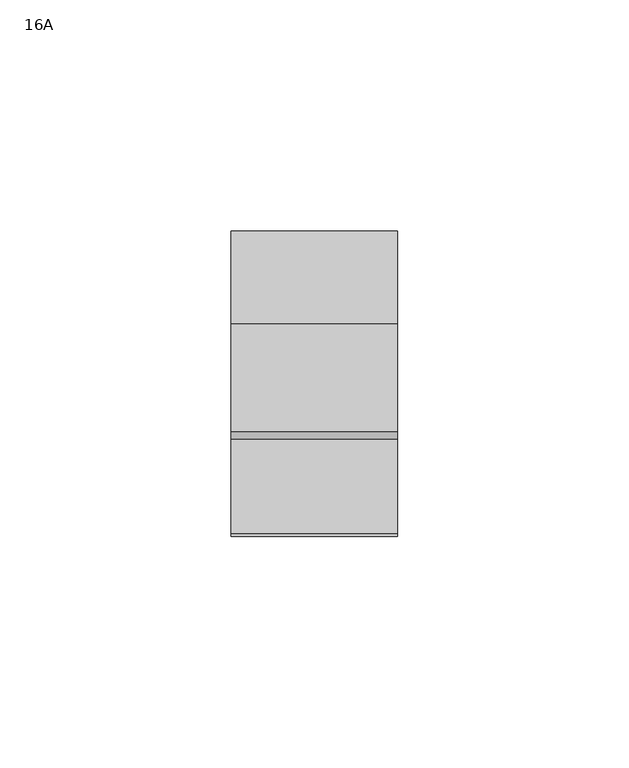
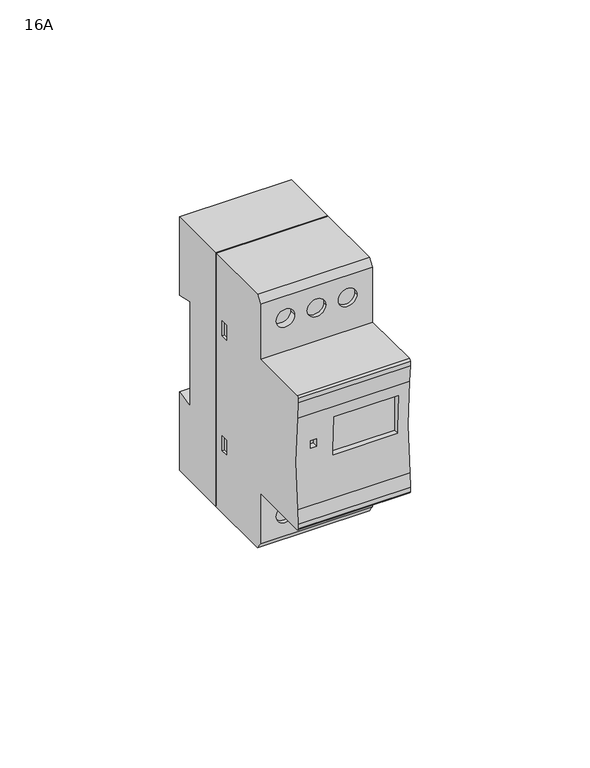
"""IFC4 building model written with IfcOpenShell, lengths in millimetres: proxy geometry, TDM_ТАЙМЕР ЭЛЕКТРОННЫЙ АСТРОНОМИЧЕСКИЙ СЕРИЙ ТЭ-АС : 16A."""

from ifc_helpers import new_model, si_unit, point, frame, frame_2d, origin, place, context, project, spatial, polyline, circle_curve, trimmed, segment, composite_curve, outline, extrude, source, transform, mapped, element, save
from ifc_brep_helpers import plane_surface, cylinder_surface, revolved_surface, advanced_brep


def proxy_16a_c5acf722(model_context):
    return source(origin(), model_context, "Body", "SolidModel", [
        extrude(outline(polyline([(-1.1062628, 22.9569592), (31.5449434, 22.9569592), (31.5449434, -22.8185394), (-2.559294, -22.8185394), (-2.559294, -20.9090084), (-21.1062628, -20.9090084), (-21.1062628, 19.0909916), (-1.1062628, 19.0909916), (-1.1062628, 22.9569592)])), frame((-17.0, 0.0, 0.0), z_axis=(1.0, 0.0, 0.0), x_axis=(0.0, 1.0, 0.0)), (0.0, 0.0, 1.0), 34.0),
        extrude(outline(polyline([(17.5, -43.0), (17.5, 43.0), (37.5, 43.0), (37.5, 16.3812828), (31.7632568, 17.7057143), (31.7632568, -17.7057143), (37.5, -16.3812828), (37.5, -43.0), (17.5, -43.0)])), frame((-18.0, 0.0, 0.0), z_axis=(1.0, 0.0, 0.0), x_axis=(0.0, 1.0, 0.0)), (0.0, 0.0, 1.0), 36.0),
        extrude(outline(composite_curve([segment(trimmed(circle_curve(frame_2d((-33.1753345, 10.0)), 3.0), [point((-33.1753345, 7.0))], [point((-33.1753345, 13.0))], False, "CARTESIAN"), True, "CONTINUOUS"), segment(trimmed(circle_curve(frame_2d((-33.1753345, 10.0)), 3.0), [point((-33.1753345, 13.0))], [point((-33.1753345, 7.0))], False, "CARTESIAN"), True, "CONTINUOUS")], self_intersect=False)), frame((0.0, -6.233416, 0.0), z_axis=(0.0, 1.0, 0.0), x_axis=(0.0, 0.0, 1.0)), (0.0, 0.0, 1.0), 1.0891534),
        extrude(outline(composite_curve([segment(trimmed(circle_curve(frame_2d((-33.1753345, 0.0)), 3.0), [point((-33.1753345, 3.0))], [point((-33.1753345, -3.0))], False, "CARTESIAN"), True, "CONTINUOUS"), segment(trimmed(circle_curve(frame_2d((-33.1753345, 0.0)), 3.0), [point((-33.1753345, -3.0))], [point((-33.1753345, 3.0))], False, "CARTESIAN"), True, "CONTINUOUS")], self_intersect=False)), frame((0.0, -6.233416, 0.0), z_axis=(0.0, 1.0, 0.0), x_axis=(0.0, 0.0, 1.0)), (0.0, 0.0, 1.0), 1.0891534),
        extrude(outline(composite_curve([segment(trimmed(circle_curve(frame_2d((-33.1753345, -10.0)), 3.0), [point((-33.1753345, -13.0))], [point((-33.1753345, -7.0))], False, "CARTESIAN"), True, "CONTINUOUS"), segment(trimmed(circle_curve(frame_2d((-33.1753345, -10.0)), 3.0), [point((-33.1753345, -7.0))], [point((-33.1753345, -13.0))], False, "CARTESIAN"), True, "CONTINUOUS")], self_intersect=False)), frame((0.0, -6.233416, 0.0), z_axis=(0.0, 1.0, 0.0), x_axis=(0.0, 0.0, 1.0)), (0.0, 0.0, 1.0), 1.0891534),
        extrude(outline(composite_curve([segment(trimmed(circle_curve(frame_2d((33.1753345, 10.0)), 3.0), [point((33.1753345, 7.0))], [point((33.1753345, 13.0))], False, "CARTESIAN"), True, "CONTINUOUS"), segment(trimmed(circle_curve(frame_2d((33.1753345, 10.0)), 3.0), [point((33.1753345, 13.0))], [point((33.1753345, 7.0))], False, "CARTESIAN"), True, "CONTINUOUS")], self_intersect=False)), frame((0.0, -6.233416, 0.0), z_axis=(0.0, 1.0, 0.0), x_axis=(0.0, 0.0, 1.0)), (0.0, 0.0, 1.0), 1.0891534),
        extrude(outline(composite_curve([segment(trimmed(circle_curve(frame_2d((33.1753345, 0.0)), 3.0), [point((33.1753345, -3.0))], [point((33.1753345, 3.0))], False, "CARTESIAN"), True, "CONTINUOUS"), segment(trimmed(circle_curve(frame_2d((33.1753345, 0.0)), 3.0), [point((33.1753345, 3.0))], [point((33.1753345, -3.0))], False, "CARTESIAN"), True, "CONTINUOUS")], self_intersect=False)), frame((0.0, -6.233416, 0.0), z_axis=(0.0, 1.0, 0.0), x_axis=(0.0, 0.0, 1.0)), (0.0, 0.0, 1.0), 1.0891534),
        advanced_brep(
        [(18.0, -5.8794854, 43.0), (18.0, -7.5, 40.6856653), (18.0, -7.5, 22.0), (18.0, -27.895359, 22.0), (18.0, -28.5, 21.395359), (18.0, -28.5, 19.9593587), (18.0, -28.1249606, 14.4860322), (18.0, -28.1700304, -16.6255356), (18.0, -28.5, -21.3409435), (18.0, -28.5, -22.895359), (18.0, -27.895359, -23.5), (18.0, -7.5, -23.5), (18.0, -7.5, -40.6856653), (18.0, -5.8794854, -43.0), (18.0, 17.5, -43.0), (18.0, 17.5, 43.0), (18.0, 11.4314889, 22.0), (18.0, 13.9314889, 22.0), (18.0, 13.9314889, 17.0), (18.0, 11.4314889, 17.0), (18.0, 11.4314889, -22.0), (18.0, 11.4314889, -17.0), (18.0, 13.9314889, -17.0), (18.0, 13.9314889, -22.0), (-18.0, -5.8794854, 43.0), (-18.0, 17.5, 43.0), (-18.0, 17.5, -43.0), (-18.0, -5.8794854, -43.0), (-18.0, -7.5, -40.6856653), (-18.0, -7.5, -23.5), (-18.0, -27.895359, -23.5), (-18.0, -28.5, -22.895359), (-18.0, -28.5, -21.3409435), (-18.0, -28.1700304, -16.6255356), (-18.0, -28.1249606, 14.4860322), (-18.0, -28.5, 19.9593587), (-18.0, -28.5, 21.395359), (-18.0, -27.895359, 22.0), (-18.0, -7.5, 22.0), (-18.0, -7.5, 40.6856653), (-18.0, 11.4314889, 22.0), (-18.0, 11.4314889, 17.0), (-18.0, 13.9314889, 17.0), (-18.0, 13.9314889, 22.0), (-18.0, 11.4314889, -22.0), (-18.0, 13.9314889, -22.0), (-18.0, 13.9314889, -17.0), (-18.0, 11.4314889, -17.0), (3.0, -5.1442626, -33.1753345), (-3.0, -5.1442626, -33.1753345), (13.0, -5.1442626, -33.1753345), (7.0, -5.1442626, -33.1753345), (-13.0, -5.1442626, -33.1753345), (-7.0, -5.1442626, -33.1753345), (3.0, -5.1442626, 33.1753345), (-3.0, -5.1442626, 33.1753345), (13.0, -5.1442626, 33.1753345), (7.0, -5.1442626, 33.1753345), (-13.0, -5.1442626, 33.1753345), (-7.0, -5.1442626, 33.1753345), (-3.0, -7.5, 33.1753345), (3.0, -7.5, 33.1753345), (7.0, -7.5, 33.1753345), (13.0, -7.5, 33.1753345), (-7.0, -7.5, 33.1753345), (-13.0, -7.5, 33.1753345), (-3.0, -7.5, -33.1753345), (3.0, -7.5, -33.1753345), (7.0, -7.5, -33.1753345), (13.0, -7.5, -33.1753345), (-7.0, -7.5, -33.1753345), (-13.0, -7.5, -33.1753345), (-6.2226247, -27.6489039, 10.50692), (14.8208901, -27.6489039, 10.50692), (14.8208901, -27.0865513, -2.8315866), (-6.2226247, -27.0865513, -2.8315866), (-13.2603564, -27.2058218, 4.6242283), (-11.3093021, -27.2058218, 4.6242283), (-11.3093021, -27.1088173, 2.0460493), (-13.2603564, -27.1088173, 2.0460493), (14.8208901, -25.1609712, 10.50692), (-6.2226247, -25.1609712, 10.50692), (-6.2226247, -25.1609712, -2.8315866), (14.8208901, -25.1609712, -2.8315866), (-11.3093021, -25.1609712, 4.6242283), (-13.2603564, -25.1609712, 4.6242283), (-13.2603564, -25.1609712, 2.0460493), (-11.3093021, -25.1609712, 2.0460493)],
        [
            (0, 1, circle_curve(frame((18.0, -12.5528996, 45.9482593), z_axis=(-1.0, 0.0, 0.0), x_axis=(0.0, -1.0, 0.0)), 7.2956624)),
            (1, 2),
            (2, 3),
            (3, 4, circle_curve(frame((18.0, -27.895359, 21.395359), z_axis=(1.0, 0.0, 0.0), x_axis=(0.0, -1.0, 0.0)), 0.604641)),
            (4, 5),
            (5, 6, circle_curve(frame((18.0, 11.6263947, 19.9593587), z_axis=(1.0, 0.0, 0.0), x_axis=(0.0, -1.0, 0.0)), 40.1263947)),
            (6, 7, circle_curve(frame((18.0, -139.9265494, -0.9078228), z_axis=(-1.0, 0.0, 0.0), x_axis=(0.0, -1.0, 0.0)), 112.8563956)),
            (7, 8, circle_curve(frame((18.0, 5.3575941, -21.3409435), z_axis=(1.0, 0.0, 0.0), x_axis=(0.0, -1.0, 0.0)), 33.8575941)),
            (8, 9),
            (9, 10, circle_curve(frame((18.0, -27.895359, -22.895359), z_axis=(1.0, 0.0, 0.0), x_axis=(0.0, -1.0, 0.0)), 0.604641)),
            (10, 11),
            (11, 12),
            (12, 13, circle_curve(frame((18.0, -12.5528996, -45.9482593), z_axis=(-1.0, 0.0, 0.0), x_axis=(0.0, -1.0, 0.0)), 7.2956624)),
            (13, 14),
            (14, 15),
            (15, 0),
            (16, 17),
            (17, 18),
            (18, 19),
            (19, 16),
            (20, 21),
            (21, 22),
            (22, 23),
            (23, 20),
            (24, 25),
            (25, 26),
            (26, 27),
            (27, 28, circle_curve(frame((-18.0, -12.5528996, -45.9482593), z_axis=(1.0, 0.0, 0.0), x_axis=(0.0, -1.0, 0.0)), 7.2956624)),
            (28, 29),
            (29, 30),
            (30, 31, circle_curve(frame((-18.0, -27.895359, -22.895359), z_axis=(-1.0, 0.0, 0.0), x_axis=(0.0, -1.0, 0.0)), 0.604641)),
            (31, 32),
            (32, 33, circle_curve(frame((-18.0, 5.3575941, -21.3409435), z_axis=(-1.0, 0.0, 0.0), x_axis=(0.0, -1.0, 0.0)), 33.8575941)),
            (33, 34, circle_curve(frame((-18.0, -139.9265494, -0.9078228), z_axis=(1.0, 0.0, 0.0), x_axis=(0.0, -1.0, 0.0)), 112.8563956)),
            (34, 35, circle_curve(frame((-18.0, 11.6263947, 19.9593587), z_axis=(-1.0, 0.0, 0.0), x_axis=(0.0, -1.0, 0.0)), 40.1263947)),
            (35, 36),
            (36, 37, circle_curve(frame((-18.0, -27.895359, 21.395359), z_axis=(-1.0, 0.0, 0.0), x_axis=(0.0, -1.0, 0.0)), 0.604641)),
            (37, 38),
            (38, 39),
            (39, 24, circle_curve(frame((-18.0, -12.5528996, 45.9482593), z_axis=(1.0, 0.0, 0.0), x_axis=(0.0, -1.0, 0.0)), 7.2956624)),
            (40, 41),
            (41, 42),
            (42, 43),
            (43, 40),
            (44, 45),
            (45, 46),
            (46, 47),
            (47, 44),
            (48, 49, circle_curve(frame((0.0, -5.1442626, -33.1753345), z_axis=(0.0, -1.0, 0.0), x_axis=(-1.0, 0.0, 0.0)), 3.0)),
            (49, 48, circle_curve(frame((0.0, -5.1442626, -33.1753345), z_axis=(0.0, -1.0, 0.0), x_axis=(-1.0, 0.0, 0.0)), 3.0)),
            (50, 51, circle_curve(frame((10.0, -5.1442626, -33.1753345), z_axis=(0.0, -1.0, 0.0), x_axis=(-1.0, 0.0, 0.0)), 3.0)),
            (51, 50, circle_curve(frame((10.0, -5.1442626, -33.1753345), z_axis=(0.0, -1.0, 0.0), x_axis=(-1.0, 0.0, 0.0)), 3.0)),
            (52, 53, circle_curve(frame((-10.0, -5.1442626, -33.1753345), z_axis=(0.0, -1.0, 0.0), x_axis=(1.0, 0.0, 0.0)), 3.0)),
            (53, 52, circle_curve(frame((-10.0, -5.1442626, -33.1753345), z_axis=(0.0, -1.0, 0.0), x_axis=(1.0, 0.0, 0.0)), 3.0)),
            (54, 55, circle_curve(frame((0.0, -5.1442626, 33.1753345), z_axis=(0.0, -1.0, 0.0), x_axis=(-1.0, 0.0, 0.0)), 3.0)),
            (55, 54, circle_curve(frame((0.0, -5.1442626, 33.1753345), z_axis=(0.0, -1.0, 0.0), x_axis=(-1.0, 0.0, 0.0)), 3.0)),
            (56, 57, circle_curve(frame((10.0, -5.1442626, 33.1753345), z_axis=(0.0, -1.0, 0.0), x_axis=(-1.0, 0.0, 0.0)), 3.0)),
            (57, 56, circle_curve(frame((10.0, -5.1442626, 33.1753345), z_axis=(0.0, -1.0, 0.0), x_axis=(-1.0, 0.0, 0.0)), 3.0)),
            (58, 59, circle_curve(frame((-10.0, -5.1442626, 33.1753345), z_axis=(0.0, -1.0, 0.0), x_axis=(1.0, 0.0, 0.0)), 3.0)),
            (59, 58, circle_curve(frame((-10.0, -5.1442626, 33.1753345), z_axis=(0.0, -1.0, 0.0), x_axis=(1.0, 0.0, 0.0)), 3.0)),
            (15, 25),
            (24, 0),
            (1, 39),
            (38, 2),
            (60, 61, circle_curve(frame((0.0, -7.5, 33.1753345), z_axis=(0.0, 1.0, 0.0), x_axis=(-1.0, 0.0, 0.0)), 3.0)),
            (61, 60, circle_curve(frame((0.0, -7.5, 33.1753345), z_axis=(0.0, 1.0, 0.0), x_axis=(-1.0, 0.0, 0.0)), 3.0)),
            (62, 63, circle_curve(frame((10.0, -7.5, 33.1753345), z_axis=(0.0, 1.0, 0.0), x_axis=(-1.0, 0.0, 0.0)), 3.0)),
            (63, 62, circle_curve(frame((10.0, -7.5, 33.1753345), z_axis=(0.0, 1.0, 0.0), x_axis=(-1.0, 0.0, 0.0)), 3.0)),
            (64, 65, circle_curve(frame((-10.0, -7.5, 33.1753345), z_axis=(0.0, 1.0, 0.0), x_axis=(1.0, 0.0, 0.0)), 3.0)),
            (65, 64, circle_curve(frame((-10.0, -7.5, 33.1753345), z_axis=(0.0, 1.0, 0.0), x_axis=(1.0, 0.0, 0.0)), 3.0)),
            (37, 3),
            (10, 30),
            (29, 11),
            (28, 12),
            (66, 67, circle_curve(frame((0.0, -7.5, -33.1753345), z_axis=(0.0, 1.0, 0.0), x_axis=(-1.0, 0.0, 0.0)), 3.0)),
            (67, 66, circle_curve(frame((0.0, -7.5, -33.1753345), z_axis=(0.0, 1.0, 0.0), x_axis=(-1.0, 0.0, 0.0)), 3.0)),
            (68, 69, circle_curve(frame((10.0, -7.5, -33.1753345), z_axis=(0.0, 1.0, 0.0), x_axis=(-1.0, 0.0, 0.0)), 3.0)),
            (69, 68, circle_curve(frame((10.0, -7.5, -33.1753345), z_axis=(0.0, 1.0, 0.0), x_axis=(-1.0, 0.0, 0.0)), 3.0)),
            (70, 71, circle_curve(frame((-10.0, -7.5, -33.1753345), z_axis=(0.0, 1.0, 0.0), x_axis=(1.0, 0.0, 0.0)), 3.0)),
            (71, 70, circle_curve(frame((-10.0, -7.5, -33.1753345), z_axis=(0.0, 1.0, 0.0), x_axis=(1.0, 0.0, 0.0)), 3.0)),
            (13, 27),
            (26, 14),
            (48, 67),
            (66, 49),
            (36, 4),
            (35, 5),
            (34, 6),
            (33, 7),
            (72, 73),
            (73, 74, circle_curve(frame((14.8208901, -139.9265494, -0.9078228), z_axis=(-1.0, 0.0, 0.0), x_axis=(0.0, -1.0, 0.0)), 112.8563956)),
            (74, 75),
            (75, 72, circle_curve(frame((-6.2226247, -139.9265494, -0.9078228), z_axis=(1.0, 0.0, 0.0), x_axis=(0.0, -1.0, 0.0)), 112.8563956)),
            (76, 77),
            (77, 78, circle_curve(frame((-11.3093021, -139.9265494, -0.9078228), z_axis=(-1.0, 0.0, 0.0), x_axis=(0.0, -1.0, 0.0)), 112.8563956)),
            (78, 79),
            (79, 76, circle_curve(frame((-13.2603564, -139.9265494, -0.9078228), z_axis=(1.0, 0.0, 0.0), x_axis=(0.0, -1.0, 0.0)), 112.8563956)),
            (32, 8),
            (31, 9),
            (16, 40),
            (43, 17),
            (42, 18),
            (41, 19),
            (20, 44),
            (47, 21),
            (46, 22),
            (45, 23),
            (50, 69),
            (68, 51),
            (52, 71),
            (70, 53),
            (54, 61),
            (60, 55),
            (56, 63),
            (62, 57),
            (58, 65),
            (64, 59),
            (80, 81),
            (81, 82),
            (82, 83),
            (83, 80),
            (84, 85),
            (85, 86),
            (86, 87),
            (87, 84),
            (80, 73),
            (72, 81),
            (75, 82),
            (74, 83),
            (84, 77),
            (76, 85),
            (79, 86),
            (78, 87),
        ],
        [
            plane_surface(frame((18.0, -19.8485619, 45.9482593), z_axis=(1.0, 0.0, 0.0), x_axis=(0.0, 0.0, 1.0))),
            plane_surface(frame((-18.0, -19.8485619, 45.9482593), z_axis=(-1.0, 0.0, 0.0), x_axis=(0.0, 0.0, -1.0))),
            plane_surface(frame((-3.0, -5.1442626, -33.1753345), z_axis=(0.0, -1.0, 0.0), x_axis=(0.0, 0.0, 1.0))),
            plane_surface(frame((18.0, 17.5, 43.0), z_axis=(0.0, 0.0, 1.0), x_axis=(-1.0, 0.0, 0.0))),
            plane_surface(frame((18.0, -7.5, 40.6856653), z_axis=(0.0, -1.0, 0.0), x_axis=(-1.0, 0.0, 0.0))),
            plane_surface(frame((18.0, -7.5, 22.0), z_axis=(0.0, 0.0, 1.0), x_axis=(-1.0, 0.0, 0.0))),
            plane_surface(frame((18.0, -27.895359, -23.5), z_axis=(0.0, 0.0, -1.0), x_axis=(-1.0, 0.0, 0.0))),
            plane_surface(frame((18.0, -7.5, -23.5), z_axis=(0.0, -1.0, 0.0), x_axis=(-1.0, 0.0, 0.0))),
            plane_surface(frame((18.0, -5.8794854, -43.0), z_axis=(0.0, 0.0, -1.0), x_axis=(-1.0, 0.0, 0.0))),
            revolved_surface(polyline([(-3.0, -7.5, -33.1753345), (-3.0, -5.1442626, -33.1753345)]), (0.0, -5.1442626, -33.1753345), (0.0, -1.0, 0.0)),
            revolved_surface(polyline([(-18.0, -19.848562, 45.9482593), (18.0, -19.848562, 45.9482593)]), (-18.0, -12.5528996, 45.9482593), (-1.0, 0.0, 0.0)),
            cylinder_surface(frame((-18.0, -27.895359, 21.395359), z_axis=(1.0, 0.0, 0.0), x_axis=(0.0, -1.0, 0.0)), 0.604641),
            plane_surface(frame((18.0, -28.5, 21.395359), z_axis=(0.0, -1.0, 0.0), x_axis=(-1.0, 0.0, 0.0))),
            cylinder_surface(frame((-18.0, 11.6263947, 19.9593587), z_axis=(1.0, 0.0, 0.0), x_axis=(0.0, -1.0, 0.0)), 40.1263947),
            revolved_surface(polyline([(-18.0, -252.78294499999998, -0.9078228), (18.0, -252.78294499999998, -0.9078228)]), (-18.0, -139.9265494, -0.9078228), (-1.0, 0.0, 0.0)),
            cylinder_surface(frame((-18.0, 5.3575941, -21.3409435), z_axis=(1.0, 0.0, 0.0), x_axis=(0.0, -1.0, 0.0)), 33.8575941),
            plane_surface(frame((18.0, -28.5, -21.3409435), z_axis=(0.0, -1.0, 0.0), x_axis=(-1.0, 0.0, 0.0))),
            cylinder_surface(frame((-18.0, -27.895359, -22.895359), z_axis=(1.0, 0.0, 0.0), x_axis=(0.0, -1.0, 0.0)), 0.604641),
            revolved_surface(polyline([(-18.0, -19.848562, -45.9482593), (18.0, -19.848562, -45.9482593)]), (-18.0, -12.5528996, -45.9482593), (-1.0, 0.0, 0.0)),
            plane_surface(frame((18.0, 17.5, -43.0), z_axis=(0.0, 1.0, 0.0), x_axis=(-1.0, 0.0, 0.0))),
            plane_surface(frame((18.0, 11.4314889, 22.0), z_axis=(0.0, 0.0, -1.0), x_axis=(-1.0, 0.0, 0.0))),
            plane_surface(frame((18.0, 13.9314889, 22.0), z_axis=(0.0, -1.0, 0.0), x_axis=(-1.0, 0.0, 0.0))),
            plane_surface(frame((18.0, 13.9314889, 17.0), z_axis=(0.0, 0.0, 1.0), x_axis=(-1.0, 0.0, 0.0))),
            plane_surface(frame((18.0, 11.4314889, 17.0), z_axis=(0.0, 1.0, 0.0), x_axis=(-1.0, 0.0, 0.0))),
            plane_surface(frame((18.0, 11.4314889, -22.0), z_axis=(0.0, 1.0, 0.0), x_axis=(-1.0, 0.0, 0.0))),
            plane_surface(frame((18.0, 11.4314889, -17.0), z_axis=(0.0, 0.0, -1.0), x_axis=(-1.0, 0.0, 0.0))),
            plane_surface(frame((18.0, 13.9314889, -17.0), z_axis=(0.0, -1.0, 0.0), x_axis=(-1.0, 0.0, 0.0))),
            plane_surface(frame((18.0, 13.9314889, -22.0), z_axis=(0.0, 0.0, 1.0), x_axis=(-1.0, 0.0, 0.0))),
            revolved_surface(polyline([(7.0, -7.5, -33.1753345), (7.0, -5.1442626, -33.1753345)]), (10.0, 0.0, -33.1753345), (0.0, -1.0, 0.0)),
            revolved_surface(polyline([(-7.0, -7.5, -33.1753345), (-7.0, -5.1442626, -33.1753345)]), (-10.0, 0.0, -33.1753345), (0.0, -1.0, 0.0)),
            revolved_surface(polyline([(-3.0, -7.5, 33.1753345), (-3.0, -5.1442626, 33.1753345)]), (0.0, 0.0, 33.1753345), (0.0, -1.0, 0.0)),
            revolved_surface(polyline([(7.0, -7.5, 33.1753345), (7.0, -5.1442626, 33.1753345)]), (10.0, 0.0, 33.1753345), (0.0, -1.0, 0.0)),
            revolved_surface(polyline([(-7.0, -7.5, 33.1753345), (-7.0, -5.1442626, 33.1753345)]), (-10.0, 0.0, 33.1753345), (0.0, -1.0, 0.0)),
            plane_surface(frame((-6.2226247, -25.1609712, 10.50692), z_axis=(0.0, -1.0, 0.0), x_axis=(1.0, 0.0, 0.0))),
            plane_surface(frame((14.8208901, -32.7579905, 10.50692), z_axis=(0.0, 0.0, -1.0), x_axis=(0.0, 1.0, 0.0))),
            plane_surface(frame((-6.2226247, -32.7579905, 10.50692), z_axis=(1.0, 0.0, 0.0), x_axis=(0.0, 1.0, 0.0))),
            plane_surface(frame((-6.2226247, -32.7579905, -2.8315866), z_axis=(0.0, 0.0, 1.0), x_axis=(0.0, 1.0, 0.0))),
            plane_surface(frame((14.8208901, -32.7579905, -2.8315866), z_axis=(-1.0, 0.0, 0.0), x_axis=(0.0, 1.0, 0.0))),
            plane_surface(frame((-11.3093021, -32.7579905, 4.6242283), z_axis=(0.0, 0.0, -1.0), x_axis=(0.0, 1.0, 0.0))),
            plane_surface(frame((-13.2603564, -32.7579905, 4.6242283), z_axis=(1.0, 0.0, 0.0), x_axis=(0.0, 1.0, 0.0))),
            plane_surface(frame((-13.2603564, -32.7579905, 2.0460493), z_axis=(0.0, 0.0, 1.0), x_axis=(0.0, 1.0, 0.0))),
            plane_surface(frame((-11.3093021, -32.7579905, 2.0460493), z_axis=(-1.0, 0.0, 0.0), x_axis=(0.0, 1.0, 0.0))),
        ],
        [
            (0, [[1, 2, 3, 4, 5, 6, 7, 8, 9, 10, 11, 12, 13, 14, 15, 16], [17, 18, 19, 20], [21, 22, 23, 24]]),
            (1, [[25, 26, 27, 28, 29, 30, 31, 32, 33, 34, 35, 36, 37, 38, 39, 40], [41, 42, 43, 44], [45, 46, 47, 48]]),
            (2, [[49, 50]]),
            (2, [[51, 52]]),
            (2, [[53, 54]]),
            (2, [[55, 56]]),
            (2, [[57, 58]]),
            (2, [[59, 60]]),
            (3, [[-16, 61, -25, 62]]),
            (4, [[-2, 63, -39, 64], [65, 66], [67, 68], [69, 70]]),
            (5, [[-3, -64, -38, 71]]),
            (6, [[-11, 72, -30, 73]]),
            (7, [[-12, -73, -29, 74], [75, 76], [77, 78], [79, 80]]),
            (8, [[-14, 81, -27, 82]]),
            (9, [[-49, 83, -75, 84]]),
            (9, [[-50, -84, -76, -83]]),
            (10, [[-1, -62, -40, -63]]),
            (11, [[-4, -71, -37, 85]]),
            (12, [[-5, -85, -36, 86]]),
            (13, [[-6, -86, -35, 87]]),
            (14, [[-7, -87, -34, 88], [89, 90, 91, 92], [93, 94, 95, 96]]),
            (15, [[-8, -88, -33, 97]]),
            (16, [[-9, -97, -32, 98]]),
            (17, [[-10, -98, -31, -72]]),
            (18, [[-13, -74, -28, -81]]),
            (19, [[-15, -82, -26, -61]]),
            (20, [[-17, 99, -44, 100]]),
            (21, [[-18, -100, -43, 101]]),
            (22, [[-19, -101, -42, 102]]),
            (23, [[-20, -102, -41, -99]]),
            (24, [[-21, 103, -48, 104]]),
            (25, [[-22, -104, -47, 105]]),
            (26, [[-23, -105, -46, 106]]),
            (27, [[-24, -106, -45, -103]]),
            (28, [[-51, 107, -77, 108]]),
            (28, [[-52, -108, -78, -107]]),
            (29, [[-53, 109, -79, 110]]),
            (29, [[-54, -110, -80, -109]]),
            (30, [[-55, 111, -65, 112]]),
            (30, [[-56, -112, -66, -111]]),
            (31, [[-57, 113, -67, 114]]),
            (31, [[-58, -114, -68, -113]]),
            (32, [[-59, 115, -69, 116]]),
            (32, [[-60, -116, -70, -115]]),
            (33, [[117, 118, 119, 120]]),
            (33, [[121, 122, 123, 124]]),
            (34, [[-117, 125, -89, 126]]),
            (35, [[-118, -126, -92, 127]]),
            (36, [[-119, -127, -91, 128]]),
            (37, [[-120, -128, -90, -125]]),
            (38, [[-121, 129, -93, 130]]),
            (39, [[-122, -130, -96, 131]]),
            (40, [[-123, -131, -95, 132]]),
            (41, [[-124, -132, -94, -129]]),
        ],
    ),
    ])


if __name__ == "__main__":
    model = new_model("IFC4")
    model_context = context("Model", 3, world=origin())
    ifc_project = project(units=[si_unit("LENGTHUNIT", "METRE", prefix="MILLI")], contexts=[model_context])
    site = spatial("IfcSite", under=ifc_project)
    building = spatial("IfcBuilding", under=site)
    placement = place(None, origin())
    proxy_16a_shape = proxy_16a_c5acf722(model_context)
    element("IfcBuildingElementProxy", 1, Name="TDM_ТАЙМЕР ЭЛЕКТРОННЫЙ АСТРОНОМИЧЕСКИЙ СЕРИЙ ТЭ-АС : 16A", ObjectType="TDM_ТАЙМЕР ЭЛЕКТРОННЫЙ АСТРОНОМИЧЕСКИЙ СЕРИЙ ТЭ-АС : 16A", at=placement, inside=building, context=model_context, shape_type="MappedRepresentation", body=[
        mapped(proxy_16a_shape, transform((0.0, 0.0, 0.0), x_axis=(1.0, 0.0, 0.0), y_axis=(0.0, 1.0, 0.0), z_axis=(0.0, 0.0, 1.0))),
    ])
    save(model, "model.ifc")
